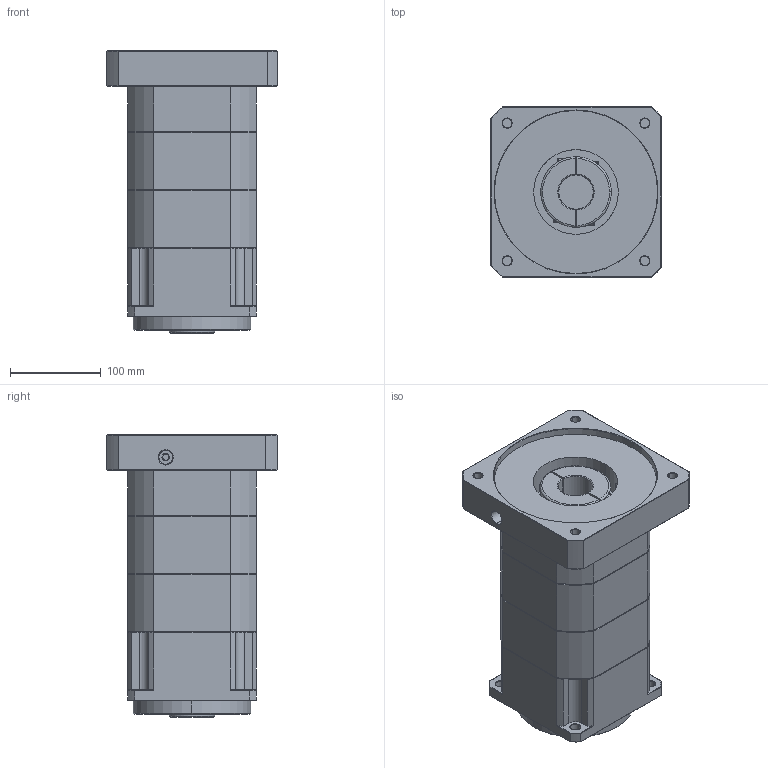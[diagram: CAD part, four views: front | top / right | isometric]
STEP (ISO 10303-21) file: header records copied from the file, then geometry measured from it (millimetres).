
FILE_DESCRIPTION (( 'STEP AP214' ), '1' );
FILE_NAME ('ZPB142-K35-L3-P1-38-180-215-M12.step', '2024-07-05T00:14:46', ( 'Windows 蚚誧' ), ( 'Organization' ), 'SwSTEP 2.0', 'SolidWorks 2016', '' );
FILE_SCHEMA (( 'AUTOMOTIVE_DESIGN' ));
Length unit declared in the file: millimetre
Products named in the file (1): ZPB142-K35-L3-P1-38-180-215-M12
Bounding box: 188 x 188 x 311.5 mm (x, y, z)
Surface area: 296027.1 mm2 (no closed solid volume)
Topology: 0 solids, 36 shells, 1798 faces, 4768 edges, 3046 vertices
Faces by surface type: plane 930, bspline 376, cone 274, cylinder 218
Entity records: 88152 total; most frequent: CARTESIAN_POINT 37909, ORIENTED_EDGE 9532, DIRECTION 7364, EDGE_CURVE 4768, LINE 3162, VECTOR 3162, VERTEX_POINT 3046, AXIS2_PLACEMENT_3D 2101
